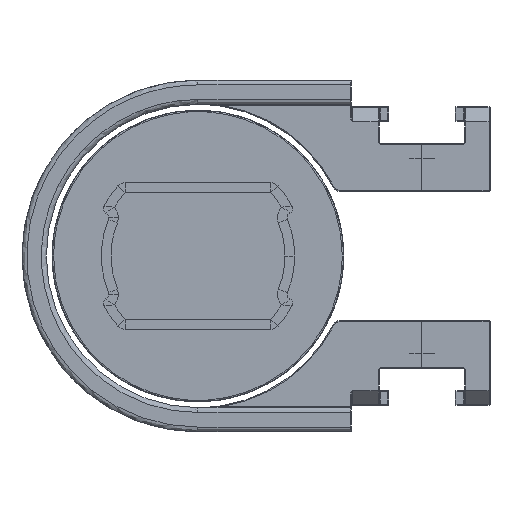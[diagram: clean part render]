
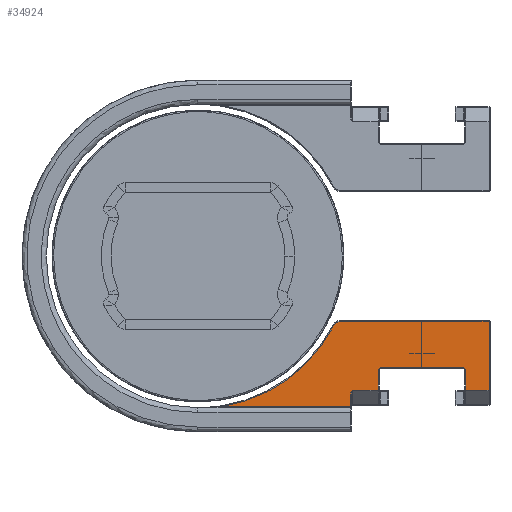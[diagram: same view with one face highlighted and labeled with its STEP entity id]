
A CAD part, left-side view. The second image highlights one B-rep face of the part: STEP entity #34924.
In plain terms, the highlighted planar face has unit normal (-1, 0, 0) as drawn and (0, 0, 1) by its records, which use the part's own axes.
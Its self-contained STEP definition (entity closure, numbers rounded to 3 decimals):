
#48 = ORIENTED_EDGE ( 'NONE', *, *, #46090, .F. ) ;
#824 = VERTEX_POINT ( 'NONE', #10915 ) ;
#1724 = LINE ( 'NONE', #38824, #58244 ) ;
#2054 = VERTEX_POINT ( 'NONE', #4072 ) ;
#3243 = CARTESIAN_POINT ( 'NONE',  ( 0., -15.7, 13.8 ) ) ;
#3379 = CARTESIAN_POINT ( 'NONE',  ( -11.47, -18.647, 13.8 ) ) ;
#3763 = EDGE_CURVE ( 'NONE', #2054, #54614, #58474, .T. ) ;
#4072 = CARTESIAN_POINT ( 'NONE',  ( -6.7, -29.95, 13.8 ) ) ;
#4675 = CARTESIAN_POINT ( 'NONE',  ( -13.809, -29.95, 13.8 ) ) ;
#4949 = B_SPLINE_CURVE_WITH_KNOTS ( 'NONE', 3,
 ( #19945, #37068, #55348, #14306, #42155, #38243 ),
 .UNSPECIFIED., .F., .F.,
 ( 4, 2, 4 ),
 ( 0., 0.5, 1. ),
 .UNSPECIFIED. ) ;
#5643 = EDGE_CURVE ( 'NONE', #54614, #31956, #4949, .T. ) ;
#6181 = VECTOR ( 'NONE', #18237, 1000. ) ;
#7278 = CARTESIAN_POINT ( 'NONE',  ( -11.45, -18.694, 13.8 ) ) ;
#7946 = VECTOR ( 'NONE', #53644, 1000. ) ;
#8193 = VECTOR ( 'NONE', #45512, 1000. ) ;
#8206 = CARTESIAN_POINT ( 'NONE',  ( -15.5, -15.7, 13.8 ) ) ;
#9606 = VERTEX_POINT ( 'NONE', #24765 ) ;
#9714 = CARTESIAN_POINT ( 'NONE',  ( -11.547, -27.53, 13.8 ) ) ;
#9757 = ORIENTED_EDGE ( 'NONE', *, *, #54191, .T. ) ;
#10240 = EDGE_CURVE ( 'NONE', #58828, #2054, #40147, .T. ) ;
#10595 = ORIENTED_EDGE ( 'NONE', *, *, #13115, .T. ) ;
#10817 = CARTESIAN_POINT ( 'NONE',  ( -6.7, -14.758, 13.8 ) ) ;
#10914 = ORIENTED_EDGE ( 'NONE', *, *, #5643, .T. ) ;
#10915 = CARTESIAN_POINT ( 'NONE',  ( -14.091, -15.7, 13.8 ) ) ;
#12400 = CARTESIAN_POINT ( 'NONE',  ( 0., 0., 13.8 ) ) ;
#13115 = EDGE_CURVE ( 'NONE', #46807, #42064, #17263, .T. ) ;
#13688 = EDGE_CURVE ( 'NONE', #9606, #50577, #42682, .T. ) ;
#13769 = CARTESIAN_POINT ( 'NONE',  ( 0., -29.95, 13.8 ) ) ;
#14306 = CARTESIAN_POINT ( 'NONE',  ( -6.919, -14.146, 13.8 ) ) ;
#14925 = CARTESIAN_POINT ( 'NONE',  ( -11.45, -18.75, 13.8 ) ) ;
#15503 = EDGE_CURVE ( 'NONE', #25862, #46807, #21719, .T. ) ;
#16475 = EDGE_LOOP ( 'NONE', ( #26659, #10914, #48, #21235, #9757, #48135, #22085, #23969, #29496, #57372, #23191, #10595, #43429, #55621 ) ) ;
#16960 = DIRECTION ( 'NONE',  ( -1., 0., 0. ) ) ;
#17106 = CARTESIAN_POINT ( 'NONE',  ( -14.691, -7.516, 13.8 ) ) ;
#17141 = VERTEX_POINT ( 'NONE', #40943 ) ;
#17263 = LINE ( 'NONE', #26223, #40742 ) ;
#17657 = DIRECTION ( 'NONE',  ( 1., 0., 0. ) ) ;
#18237 = DIRECTION ( 'NONE',  ( 1., 0., 0. ) ) ;
#19160 = CARTESIAN_POINT ( 'NONE',  ( -13.809, -18.55, 13.8 ) ) ;
#19733 = EDGE_CURVE ( 'NONE', #50577, #25862, #1724, .T. ) ;
#19945 = CARTESIAN_POINT ( 'NONE',  ( -6.7, -14.758, 13.8 ) ) ;
#20524 = DIRECTION ( 'NONE',  ( 0., -1., 0. ) ) ;
#21026 = EDGE_CURVE ( 'NONE', #17141, #824, #29311, .T. ) ;
#21235 = ORIENTED_EDGE ( 'NONE', *, *, #38737, .T. ) ;
#21472 = DIRECTION ( 'NONE',  ( 1., 0., 0. ) ) ;
#21719 = B_SPLINE_CURVE_WITH_KNOTS ( 'NONE', 3,
 ( #37550, #24319, #41761, #9714, #29093, #27925 ),
 .UNSPECIFIED., .F., .F.,
 ( 4, 2, 4 ),
 ( 0., 0.5, 1. ),
 .UNSPECIFIED. ) ;
#21957 = FACE_OUTER_BOUND ( 'NONE', #16475, .T. ) ;
#22085 = ORIENTED_EDGE ( 'NONE', *, *, #51109, .T. ) ;
#22196 = CARTESIAN_POINT ( 'NONE',  ( -11.548, -18.57, 13.8 ) ) ;
#22356 = LINE ( 'NONE', #3243, #52772 ) ;
#22441 = CARTESIAN_POINT ( 'NONE',  ( -14.017, -15.7, 13.8 ) ) ;
#22741 = CARTESIAN_POINT ( 'NONE',  ( -13.809, -15.9, 13.8 ) ) ;
#23191 = ORIENTED_EDGE ( 'NONE', *, *, #15503, .T. ) ;
#23969 = ORIENTED_EDGE ( 'NONE', *, *, #54747, .T. ) ;
#24319 = CARTESIAN_POINT ( 'NONE',  ( -11.45, -27.405, 13.8 ) ) ;
#24765 = CARTESIAN_POINT ( 'NONE',  ( -11.65, -18.55, 13.8 ) ) ;
#25862 = VERTEX_POINT ( 'NONE', #46778 ) ;
#25921 = CARTESIAN_POINT ( 'NONE',  ( -11.65, -27.55, 13.8 ) ) ;
#26223 = CARTESIAN_POINT ( 'NONE',  ( 0., -27.55, 13.8 ) ) ;
#26659 = ORIENTED_EDGE ( 'NONE', *, *, #3763, .T. ) ;
#27207 = CARTESIAN_POINT ( 'NONE',  ( -13.809, 0., 13.8 ) ) ;
#27925 = CARTESIAN_POINT ( 'NONE',  ( -11.65, -27.55, 13.8 ) ) ;
#29093 = CARTESIAN_POINT ( 'NONE',  ( -11.594, -27.55, 13.8 ) ) ;
#29311 = B_SPLINE_CURVE_WITH_KNOTS ( 'NONE', 3,
 ( #22741, #37420, #51178, #41628, #22441, #50887 ),
 .UNSPECIFIED., .F., .F.,
 ( 4, 2, 4 ),
 ( 0., 0.5, 1. ),
 .UNSPECIFIED. ) ;
#29496 = ORIENTED_EDGE ( 'NONE', *, *, #13688, .T. ) ;
#30344 = VECTOR ( 'NONE', #45887, 1000. ) ;
#31224 = PLANE ( 'NONE',  #39336 ) ;
#31956 = VERTEX_POINT ( 'NONE', #47413 ) ;
#32069 = VERTEX_POINT ( 'NONE', #8206 ) ;
#32393 = VERTEX_POINT ( 'NONE', #32575 ) ;
#32575 = CARTESIAN_POINT ( 'NONE',  ( -15.5, -2.498, 13.8 ) ) ;
#33634 = VECTOR ( 'NONE', #40275, 1000. ) ;
#34278 = CARTESIAN_POINT ( 'NONE',  ( -13.809, 0., 13.8 ) ) ;
#34924 = ADVANCED_FACE ( 'NONE', ( #21957 ), #31224, .T. ) ;
#35388 = CARTESIAN_POINT ( 'NONE',  ( -7.188, -13.958, 13.8 ) ) ;
#35409 = CARTESIAN_POINT ( 'NONE',  ( -11.45, -18.75, 13.8 ) ) ;
#36564 = CARTESIAN_POINT ( 'NONE',  ( -15.5, 0., 13.8 ) ) ;
#36632 = VERTEX_POINT ( 'NONE', #19160 ) ;
#36658 = CARTESIAN_POINT ( 'NONE',  ( -13.809, -27.55, 13.8 ) ) ;
#37068 = CARTESIAN_POINT ( 'NONE',  ( -6.7, -14.59, 13.8 ) ) ;
#37420 = CARTESIAN_POINT ( 'NONE',  ( -13.809, -15.847, 13.8 ) ) ;
#37550 = CARTESIAN_POINT ( 'NONE',  ( -11.45, -27.35, 13.8 ) ) ;
#38243 = CARTESIAN_POINT ( 'NONE',  ( -7.188, -13.958, 13.8 ) ) ;
#38570 =( BOUNDED_CURVE ( )  B_SPLINE_CURVE ( 3, ( #39892, #17106, #40478, #35388 ),
 .UNSPECIFIED., .F., .T. ) 
 B_SPLINE_CURVE_WITH_KNOTS ( ( 4, 4 ),
 ( 0., 1. ),
 .UNSPECIFIED. ) 
 CURVE ( )  GEOMETRIC_REPRESENTATION_ITEM ( )  RATIONAL_B_SPLINE_CURVE ( ( 1., 0.928, 0.928, 1. ) ) 
 REPRESENTATION_ITEM ( '' )  );
#38737 = EDGE_CURVE ( 'NONE', #32393, #32069, #58121, .T. ) ;
#38824 = CARTESIAN_POINT ( 'NONE',  ( -11.45, 0., 13.8 ) ) ;
#39336 = AXIS2_PLACEMENT_3D ( 'NONE', #12400, #54310, #44135 ) ;
#39892 = CARTESIAN_POINT ( 'NONE',  ( -15.5, -2.498, 13.8 ) ) ;
#40147 = LINE ( 'NONE', #13769, #6181 ) ;
#40275 = DIRECTION ( 'NONE',  ( 0., -1., 0. ) ) ;
#40478 = CARTESIAN_POINT ( 'NONE',  ( -11.707, -11.631, 13.8 ) ) ;
#40742 = VECTOR ( 'NONE', #16960, 1000. ) ;
#40943 = CARTESIAN_POINT ( 'NONE',  ( -13.809, -15.9, 13.8 ) ) ;
#41386 = VECTOR ( 'NONE', #17657, 1000. ) ;
#41628 = CARTESIAN_POINT ( 'NONE',  ( -13.944, -15.722, 13.8 ) ) ;
#41761 = CARTESIAN_POINT ( 'NONE',  ( -11.47, -27.452, 13.8 ) ) ;
#42064 = VERTEX_POINT ( 'NONE', #36658 ) ;
#42155 = CARTESIAN_POINT ( 'NONE',  ( -7.038, -14.035, 13.8 ) ) ;
#42682 = B_SPLINE_CURVE_WITH_KNOTS ( 'NONE', 3,
 ( #57861, #58150, #22196, #3379, #7278, #35409 ),
 .UNSPECIFIED., .F., .F.,
 ( 4, 2, 4 ),
 ( 0., 0.5, 1. ),
 .UNSPECIFIED. ) ;
#43429 = ORIENTED_EDGE ( 'NONE', *, *, #58697, .T. ) ;
#44135 = DIRECTION ( 'NONE',  ( 1., 0., 0. ) ) ;
#45222 = CARTESIAN_POINT ( 'NONE',  ( 0., -18.55, 13.8 ) ) ;
#45512 = DIRECTION ( 'NONE',  ( 0., -1., 0. ) ) ;
#45887 = DIRECTION ( 'NONE',  ( 0., 1., 0. ) ) ;
#46090 = EDGE_CURVE ( 'NONE', #32393, #31956, #38570, .T. ) ;
#46778 = CARTESIAN_POINT ( 'NONE',  ( -11.45, -27.35, 13.8 ) ) ;
#46807 = VERTEX_POINT ( 'NONE', #25921 ) ;
#47413 = CARTESIAN_POINT ( 'NONE',  ( -7.188, -13.958, 13.8 ) ) ;
#48135 = ORIENTED_EDGE ( 'NONE', *, *, #21026, .F. ) ;
#50021 = LINE ( 'NONE', #27207, #8193 ) ;
#50381 = CARTESIAN_POINT ( 'NONE',  ( -6.7, 0., 13.8 ) ) ;
#50577 = VERTEX_POINT ( 'NONE', #14925 ) ;
#50887 = CARTESIAN_POINT ( 'NONE',  ( -14.091, -15.7, 13.8 ) ) ;
#51109 = EDGE_CURVE ( 'NONE', #17141, #36632, #57037, .T. ) ;
#51178 = CARTESIAN_POINT ( 'NONE',  ( -13.839, -15.796, 13.8 ) ) ;
#52772 = VECTOR ( 'NONE', #21472, 1000. ) ;
#53644 = DIRECTION ( 'NONE',  ( 0., -1., 0. ) ) ;
#54191 = EDGE_CURVE ( 'NONE', #32069, #824, #22356, .T. ) ;
#54310 = DIRECTION ( 'NONE',  ( 0., 0., 1. ) ) ;
#54614 = VERTEX_POINT ( 'NONE', #10817 ) ;
#54747 = EDGE_CURVE ( 'NONE', #36632, #9606, #58691, .T. ) ;
#55348 = CARTESIAN_POINT ( 'NONE',  ( -6.744, -14.433, 13.8 ) ) ;
#55621 = ORIENTED_EDGE ( 'NONE', *, *, #10240, .T. ) ;
#57037 = LINE ( 'NONE', #34278, #33634 ) ;
#57372 = ORIENTED_EDGE ( 'NONE', *, *, #19733, .T. ) ;
#57861 = CARTESIAN_POINT ( 'NONE',  ( -11.65, -18.55, 13.8 ) ) ;
#58121 = LINE ( 'NONE', #36564, #7946 ) ;
#58150 = CARTESIAN_POINT ( 'NONE',  ( -11.595, -18.55, 13.8 ) ) ;
#58244 = VECTOR ( 'NONE', #20524, 1000. ) ;
#58474 = LINE ( 'NONE', #50381, #30344 ) ;
#58691 = LINE ( 'NONE', #45222, #41386 ) ;
#58697 = EDGE_CURVE ( 'NONE', #42064, #58828, #50021, .T. ) ;
#58828 = VERTEX_POINT ( 'NONE', #4675 ) ;
